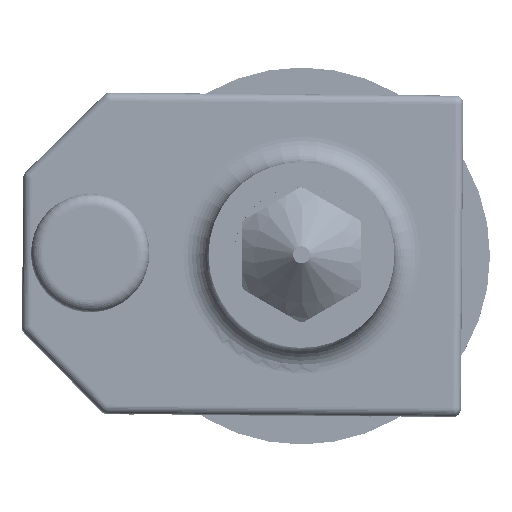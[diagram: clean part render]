
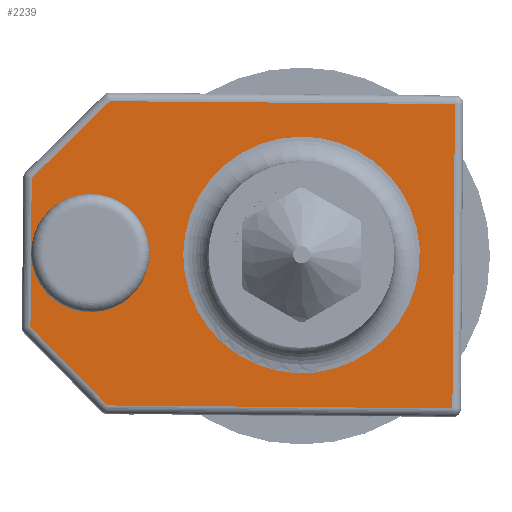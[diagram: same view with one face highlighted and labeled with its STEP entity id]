
A CAD part, top view. The second image highlights one B-rep face of the part: STEP entity #2239.
In plain terms, the highlighted planar face has unit normal (0, 0, 1).
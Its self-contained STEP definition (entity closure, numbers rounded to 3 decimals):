
#1317=FACE_BOUND('',#4168,.T.);
#1318=FACE_BOUND('',#4169,.T.);
#1649=CIRCLE('',#14598,3.5);
#1650=CIRCLE('',#14599,7.);
#2239=ADVANCED_FACE('',(#1317,#1318),#3093,.F.);
#3093=PLANE('',#14600);
#4168=EDGE_LOOP('',(#5305,#5306,#5307,#5308,#5309,#5310,#5311,#5312));
#4169=EDGE_LOOP('',(#5313));
#5305=ORIENTED_EDGE('',*,*,#10738,.T.);
#5306=ORIENTED_EDGE('',*,*,#10739,.T.);
#5307=ORIENTED_EDGE('',*,*,#10740,.T.);
#5308=ORIENTED_EDGE('',*,*,#10741,.T.);
#5309=ORIENTED_EDGE('',*,*,#10742,.T.);
#5310=ORIENTED_EDGE('',*,*,#10743,.T.);
#5311=ORIENTED_EDGE('',*,*,#10744,.T.);
#5312=ORIENTED_EDGE('',*,*,#10745,.T.);
#5313=ORIENTED_EDGE('',*,*,#10746,.T.);
#9375=VERTEX_POINT('',#20029);
#9376=VERTEX_POINT('',#20030);
#9377=VERTEX_POINT('',#20033);
#9378=VERTEX_POINT('',#20035);
#9379=VERTEX_POINT('',#20037);
#9380=VERTEX_POINT('',#20039);
#9381=VERTEX_POINT('',#20041);
#9382=VERTEX_POINT('',#20044);
#10738=EDGE_CURVE('',#9375,#9376,#12751,.T.);
#10739=EDGE_CURVE('',#9376,#9376,#1649,.T.);
#10740=EDGE_CURVE('',#9376,#9377,#12752,.T.);
#10741=EDGE_CURVE('',#9377,#9378,#12753,.T.);
#10742=EDGE_CURVE('',#9378,#9379,#12754,.T.);
#10743=EDGE_CURVE('',#9379,#9380,#12755,.T.);
#10744=EDGE_CURVE('',#9380,#9381,#12756,.T.);
#10745=EDGE_CURVE('',#9381,#9375,#12757,.T.);
#10746=EDGE_CURVE('',#9382,#9382,#1650,.T.);
#12751=LINE('',#20028,#13687);
#12752=LINE('',#20032,#13688);
#12753=LINE('',#20034,#13689);
#12754=LINE('',#20036,#13690);
#12755=LINE('',#20038,#13691);
#12756=LINE('',#20040,#13692);
#12757=LINE('',#20042,#13693);
#13687=VECTOR('',#16169,1.);
#13688=VECTOR('',#16172,1.);
#13689=VECTOR('',#16173,1.);
#13690=VECTOR('',#16174,1.);
#13691=VECTOR('',#16175,1.);
#13692=VECTOR('',#16176,1.);
#13693=VECTOR('',#16177,1.);
#14598=AXIS2_PLACEMENT_3D('',#20031,#16170,#16171);
#14599=AXIS2_PLACEMENT_3D('',#20043,#16178,#16179);
#14600=AXIS2_PLACEMENT_3D('',#20045,#16180,#16181);
#16169=DIRECTION('',(-0.008,-1.,0.));
#16170=DIRECTION('',(0.,0.,-1.));
#16171=DIRECTION('',(0.924,0.383,0.));
#16172=DIRECTION('',(-0.008,-1.,0.));
#16173=DIRECTION('',(0.701,-0.713,0.));
#16174=DIRECTION('',(1.,-0.008,0.));
#16175=DIRECTION('',(0.008,1.,0.));
#16176=DIRECTION('',(-1.,0.008,0.));
#16177=DIRECTION('',(-0.713,-0.701,0.));
#16178=DIRECTION('',(0.,0.,-1.));
#16179=DIRECTION('',(0.924,0.383,0.));
#16180=DIRECTION('',(0.,0.,-1.));
#16181=DIRECTION('',(-0.924,-0.383,0.));
#20028=CARTESIAN_POINT('',(-22.475,1.687,79.55));
#20029=CARTESIAN_POINT('',(-22.451,4.598,79.55));
#20030=CARTESIAN_POINT('',(-22.488,0.184,79.55));
#20031=CARTESIAN_POINT('',(-18.988,0.155,79.55));
#20032=CARTESIAN_POINT('',(-22.475,1.687,79.55));
#20033=CARTESIAN_POINT('',(-22.525,-4.23,79.55));
#20034=CARTESIAN_POINT('',(-14.795,-12.09,79.55));
#20035=CARTESIAN_POINT('',(-17.977,-8.854,79.55));
#20036=CARTESIAN_POINT('',(-1.057,-8.995,79.55));
#20037=CARTESIAN_POINT('',(2.436,-9.024,79.55));
#20038=CARTESIAN_POINT('',(2.524,1.479,79.55));
#20039=CARTESIAN_POINT('',(2.586,8.975,79.55));
#20040=CARTESIAN_POINT('',(-0.907,9.004,79.55));
#20041=CARTESIAN_POINT('',(-17.827,9.145,79.55));
#20042=CARTESIAN_POINT('',(-13.076,13.818,79.55));
#20043=CARTESIAN_POINT('',(-6.489,0.05,79.55));
#20044=CARTESIAN_POINT('',(-0.022,2.732,79.55));
#20045=CARTESIAN_POINT('',(-0.97,1.508,79.55));
